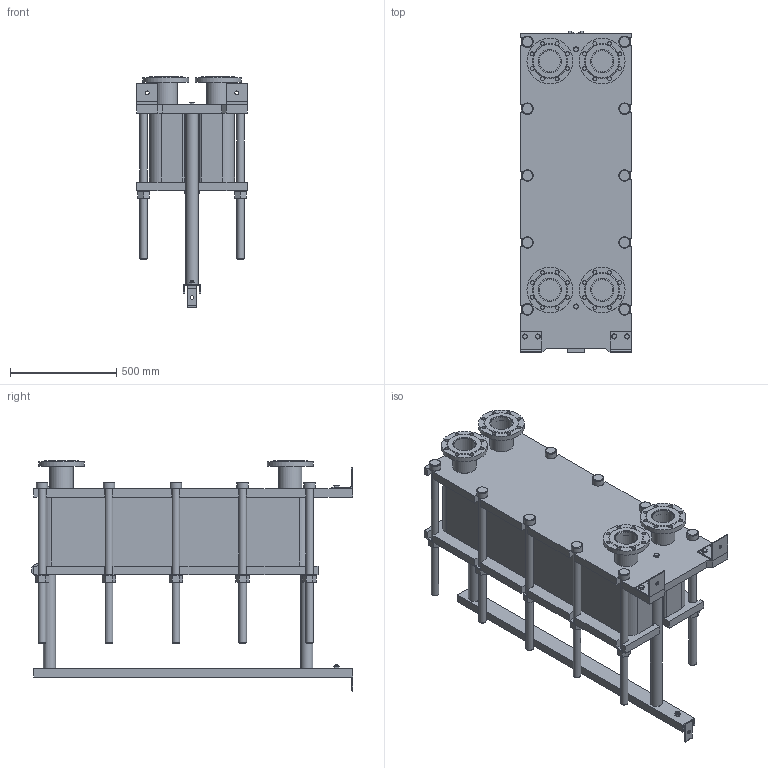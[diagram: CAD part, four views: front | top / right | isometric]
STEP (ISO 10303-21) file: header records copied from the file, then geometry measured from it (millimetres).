
FILE_DESCRIPTION(/* description */ (''),/* implementation_level */ '2;1');
FILE_NAME(/* name */ 'C:\Users\zhuro\Desktop\ENCO\TO\ЭН-04\ЭН-0,5-04-94-1.stp',/* time_stamp */ '2022-06-06T10:53:17+03:00',/* author */ ('zhuro'),/* organization */ (''),/* preprocessor_version */ 'ST-DEVELOPER v18.1',/* originating_system */ 'Autodesk Inventor 2022',/* authorisation */ '');
FILE_SCHEMA (('AUTOMOTIVE_DESIGN { 1 0 10303 214 3 1 1 }'));
Length unit declared in the file: millimetre
Products named in the file (1): ЭН-0,5-04-94-1
Bounding box: 520 x 1510 x 1082 mm (x, y, z)
Volume: 232953752.1 mm3; surface area: 8223321.4 mm2
Topology: 45 solids, 45 shells, 668 faces, 1611 edges, 1048 vertices
Faces by surface type: plane 457, cylinder 166, cone 39, torus 6
Full cylindrical faces by diameter (mm): 8 x4, 10 x2, 16 x8, 18 x35, 36 x25, 40 x2, 42 x1, 45 x4, 54 x10, 57 x2, 60 x10, 68 x2, 100 x4, 110 x8, 215 x4
Entity records: 23607 total; most frequent: CARTESIAN_POINT 7348, DIRECTION 3371, ORIENTED_EDGE 3142, EDGE_CURVE 1571, AXIS2_PLACEMENT_3D 1199, VERTEX_POINT 1044, LINE 973, VECTOR 973
